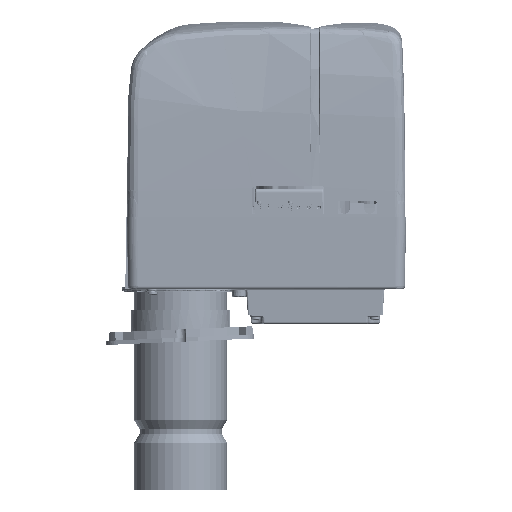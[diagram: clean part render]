
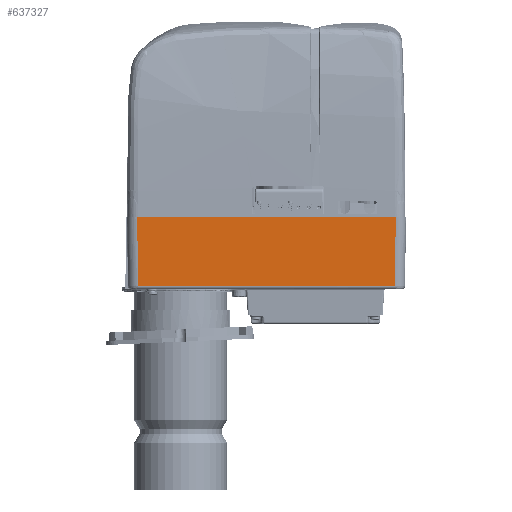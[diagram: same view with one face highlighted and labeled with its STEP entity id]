
A CAD part, left-side view. The second image highlights one B-rep face of the part: STEP entity #637327.
In plain terms, the highlighted planar face has unit normal (-1, 0, -0.018).
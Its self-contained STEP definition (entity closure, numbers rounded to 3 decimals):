
#34081 = EDGE_CURVE ( 'NONE', #491786, #372086, #39324, .T. ) ;
#39324 = LINE ( 'NONE', #164871, #503172 ) ;
#70913 = DIRECTION ( 'NONE',  ( 1., 0., 0.017 ) ) ;
#93859 = EDGE_LOOP ( 'NONE', ( #398060, #196221, #681272, #376200 ) ) ;
#99212 = PLANE ( 'NONE',  #520654 ) ;
#131415 = CARTESIAN_POINT ( 'NONE',  ( -122.143, 121.934, -496.756 ) ) ;
#164871 = CARTESIAN_POINT ( 'NONE',  ( -123.313, -128.565, -429.7 ) ) ;
#196221 = ORIENTED_EDGE ( 'NONE', *, *, #34081, .F. ) ;
#236198 = VECTOR ( 'NONE', #276951, 1000. ) ;
#244614 = VERTEX_POINT ( 'NONE', #596502 ) ;
#270144 = CARTESIAN_POINT ( 'NONE',  ( -123.313, 132.49, -429.7 ) ) ;
#276951 = DIRECTION ( 'NONE',  ( 0., -1., 0. ) ) ;
#286267 = CARTESIAN_POINT ( 'NONE',  ( -122.143, -127.394, -496.756 ) ) ;
#319687 = EDGE_CURVE ( 'NONE', #244614, #450013, #410238, .T. ) ;
#336053 = LINE ( 'NONE', #270144, #236198 ) ;
#345026 = DIRECTION ( 'NONE',  ( 0., 1., 0. ) ) ;
#346197 = VECTOR ( 'NONE', #616259, 1000. ) ;
#372086 = VERTEX_POINT ( 'NONE', #286267 ) ;
#376200 = ORIENTED_EDGE ( 'NONE', *, *, #319687, .F. ) ;
#386938 = LINE ( 'NONE', #502030, #598110 ) ;
#398060 = ORIENTED_EDGE ( 'NONE', *, *, #657026, .F. ) ;
#410238 = LINE ( 'NONE', #131415, #346197 ) ;
#429158 = EDGE_CURVE ( 'NONE', #450013, #491786, #336053, .T. ) ;
#450013 = VERTEX_POINT ( 'NONE', #655896 ) ;
#491786 = VERTEX_POINT ( 'NONE', #592381 ) ;
#502030 = CARTESIAN_POINT ( 'NONE',  ( -122.143, 132.49, -496.756 ) ) ;
#503172 = VECTOR ( 'NONE', #580038, 1000. ) ;
#520654 = AXIS2_PLACEMENT_3D ( 'NONE', #548980, #70913, #545540 ) ;
#545540 = DIRECTION ( 'NONE',  ( 0.017, 0., -1. ) ) ;
#548980 = CARTESIAN_POINT ( 'NONE',  ( -123.313, 132.49, -429.708 ) ) ;
#577233 = FACE_OUTER_BOUND ( 'NONE', #93859, .T. ) ;
#580038 = DIRECTION ( 'NONE',  ( 0.017, 0.017, -1. ) ) ;
#592381 = CARTESIAN_POINT ( 'NONE',  ( -123.313, -128.565, -429.7 ) ) ;
#596502 = CARTESIAN_POINT ( 'NONE',  ( -122.143, 121.934, -496.756 ) ) ;
#598110 = VECTOR ( 'NONE', #345026, 1000. ) ;
#616259 = DIRECTION ( 'NONE',  ( -0.017, 0.017, 1. ) ) ;
#637327 = ADVANCED_FACE ( 'NONE', ( #577233 ), #99212, .F. ) ;
#655896 = CARTESIAN_POINT ( 'NONE',  ( -123.313, 123.104, -429.7 ) ) ;
#657026 = EDGE_CURVE ( 'NONE', #372086, #244614, #386938, .T. ) ;
#681272 = ORIENTED_EDGE ( 'NONE', *, *, #429158, .F. ) ;
